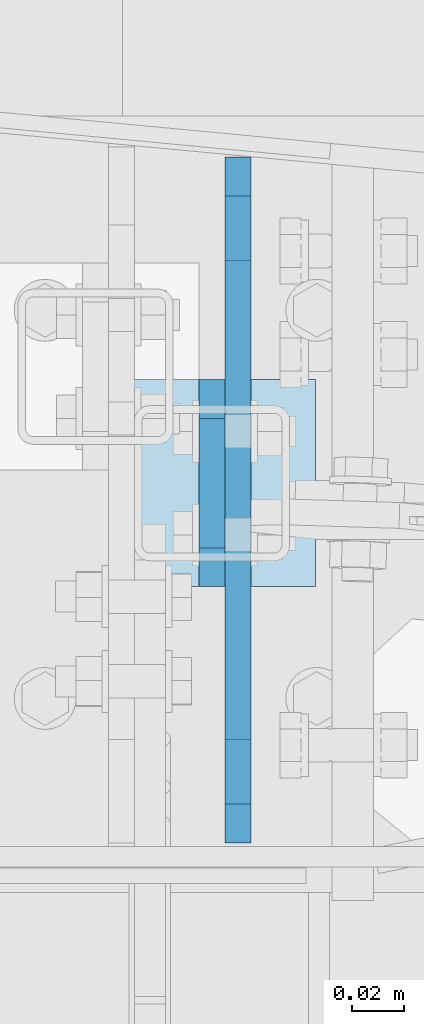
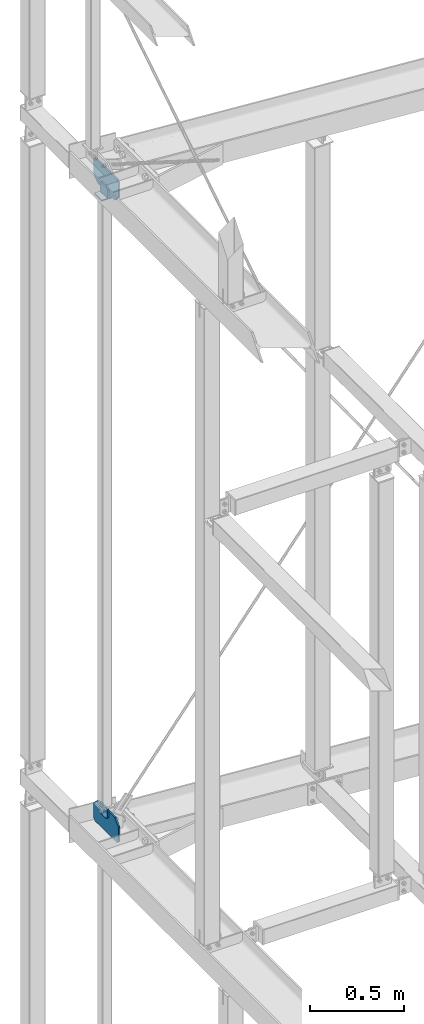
# One storey, part 139 of 271: 5 plates, 3 elements without a shape of their own.
"""IFC2X3 building model written with IfcOpenShell, lengths in millimetres."""

from ifc_helpers import new_model, si_unit, frame, origin_with_axes, place, context, subcontext, project, spatial, polyline, outline, extrude, material, type_object, element, aggregate, save


model = new_model("IFC2X3")

# Units and contexts
model_context = context("Model", 3, precision=1e-05, world=origin_with_axes())
body_context = subcontext(model_context, "Body", "Model", "MODEL_VIEW")
ifc_project = project(units=[si_unit("LENGTHUNIT", "METRE", prefix="MILLI"), si_unit("AREAUNIT", "SQUARE_METRE"), si_unit("VOLUMEUNIT", "CUBIC_METRE"), si_unit("MASSUNIT", "GRAM", prefix="KILO"), si_unit("TIMEUNIT", "SECOND"), si_unit("PLANEANGLEUNIT", "RADIAN"), si_unit("SOLIDANGLEUNIT", "STERADIAN"), si_unit("THERMODYNAMICTEMPERATUREUNIT", "DEGREE_CELSIUS"), si_unit("LUMINOUSINTENSITYUNIT", "LUMEN")], contexts=[model_context])

# Site, building, storey
site_placement = place(None, origin_with_axes())
site = spatial("IfcSite", under=ifc_project, at=site_placement, Name="Undefined", CompositionType="ELEMENT")
building_placement = place(site_placement, origin_with_axes())
building = spatial("IfcBuilding", under=site, at=building_placement, Name="Undefined", CompositionType="ELEMENT")
storey_placement = place(building_placement, origin_with_axes())
storey = spatial("IfcBuildingStorey", under=building, at=storey_placement, Name="Undefined", CompositionType="ELEMENT", Elevation=0.0)

# Assembly, plates
assembly_1_placement = place(storey_placement, origin_with_axes())
assembly_1 = element("IfcElementAssembly", 1, at=assembly_1_placement, inside=storey, AssemblyPlace="NOTDEFINED", PredefinedType="RIGID_FRAME")
ifc_material = material(Name="STEEL/S355JR")
plate_type_1 = type_object("IfcPlateType", Name="BL10*70", PredefinedType="NOTDEFINED")
plate_1_placement = place(assembly_1_placement, frame((122.999999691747, 4332.19355050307, 14442.649999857), z_axis=(-1.0, 0.0, 1.38777878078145e-17), x_axis=(0.0, -0.707106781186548, -0.707106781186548)))
plate_1 = element("IfcPlate", 2, at=plate_1_placement, type_object=plate_type_1, material=ifc_material, Name="BLACHA", ObjectType="BL10*70", context=body_context, shape_type="SweptSolid", body=[
    extrude(outline(polyline([(0.0, 0.0), (21.2132034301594, 1.09139364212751e-11), (56.5685424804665, 35.3553390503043), (56.568542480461, 56.5685424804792), (17.6776695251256, 95.4594192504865), (-38.890872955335, 38.8908729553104), (0.0, 0.0)])), frame((0.0, 0.0, -5.0), z_axis=(0.0, 0.0, 1.0), x_axis=(1.0, 0.0, 0.0)), (0.0, 0.0, 1.0), 10.0),
])
plate_2_placement = place(assembly_1_placement, frame((122.999999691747, 4252.19355050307, 18526.049999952), z_axis=(-1.0, 0.0, 1.38777878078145e-17), x_axis=(0.0, 0.707106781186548, 0.707106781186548)))
plate_2 = element("IfcPlate", 3, at=plate_2_placement, type_object=plate_type_1, material=ifc_material, Name="BLACHA", ObjectType="BL10*70", context=body_context, shape_type="SweptSolid", body=[
    extrude(outline(polyline([(0.0, 0.0), (21.2132034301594, 1.09139364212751e-11), (56.5685424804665, 35.3553390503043), (56.568542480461, 56.5685424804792), (17.6776695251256, 95.4594192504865), (-38.890872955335, 38.8908729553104), (0.0, 0.0)])), frame((0.0, 0.0, -5.0), z_axis=(0.0, 0.0, 1.0), x_axis=(1.0, 0.0, 0.0)), (0.0, 0.0, 1.0), 10.0),
])
plate_type_2 = type_object("IfcPlateType", Name="BL8*80", PredefinedType="NOTDEFINED")
plate_3_placement = place(assembly_1_placement, frame((162.999999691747, 4252.19355050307, 18467.049999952), z_axis=(0.0, 0.0, 1.0), x_axis=(0.0, 1.0, 0.0)))
plate_3 = element("IfcPlate", 4, at=plate_3_placement, type_object=plate_type_2, material=ifc_material, Name="BLACHA", ObjectType="BL8*80", context=body_context, shape_type="SweptSolid", body=[
    extrude(outline(polyline([(0.0, 0.0), (80.0, 0.0), (80.0, 80.0), (0.0, 80.0), (0.0, 0.0)])), frame((0.0, 0.0, -4.0), z_axis=(0.0, 0.0, 1.0), x_axis=(1.0, 0.0, 0.0)), (0.0, 0.0, 1.0), 8.0),
])
aggregate(assembly_1, [plate_1, plate_3, plate_2])

# Assembly, plate
assembly_2_placement = place(storey_placement, origin_with_axes())
assembly_2 = element("IfcElementAssembly", 5, at=assembly_2_placement, inside=storey, AssemblyPlace="NOTDEFINED", PredefinedType="RIGID_FRAME")
plate_type_3 = type_object("IfcPlateType", Name="BL10*150", PredefinedType="NOTDEFINED")
plate_4_placement = place(assembly_2_placement, frame((132.999999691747, 4418.19355050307, 14327.649999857), z_axis=(-1.0, 0.0, 1.38777878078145e-17), x_axis=(0.0, -1.0, 0.0)))
plate_4 = element("IfcPlate", 6, at=plate_4_placement, type_object=plate_type_3, material=ifc_material, Name="BLACHA", ObjectType="BL10*150", context=body_context, shape_type="SweptSolid", body=[
    extrude(outline(polyline([(0.0, 15.0), (15.0, -1.59872115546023e-14), (250.0, -1.4210854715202e-14), (265.0, 15.0), (265.0, 110.0), (225.0, 150.0), (40.0, 150.0), (0.0, 110.0), (0.0, 15.0)])), frame((0.0, 0.0, -5.0), z_axis=(0.0, 0.0, 1.0), x_axis=(1.0, 0.0, 0.0)), (0.0, 0.0, 1.0), 10.0),
])
aggregate(assembly_2, [plate_4])

assembly_3_placement = place(storey_placement, origin_with_axes())
assembly_3 = element("IfcElementAssembly", 7, at=assembly_3_placement, inside=storey, AssemblyPlace="NOTDEFINED", PredefinedType="RIGID_FRAME")
plate_5_placement = place(assembly_3_placement, frame((132.999999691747, 4153.19355050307, 18641.049999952), z_axis=(-1.0, 0.0, 1.38777878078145e-17), x_axis=(0.0, 1.0, 0.0)))
plate_5 = element("IfcPlate", 8, at=plate_5_placement, type_object=plate_type_3, material=ifc_material, Name="BLACHA", ObjectType="BL10*150", context=body_context, shape_type="SweptSolid", body=[
    extrude(outline(polyline([(0.0, 15.0), (15.0, -1.59872115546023e-14), (250.0, -1.4210854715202e-14), (265.0, 15.0), (265.0, 110.0), (225.0, 150.0), (40.0, 150.0), (0.0, 110.0), (0.0, 15.0)])), frame((0.0, 0.0, -5.0), z_axis=(0.0, 0.0, 1.0), x_axis=(1.0, 0.0, 0.0)), (0.0, 0.0, 1.0), 10.0),
])
aggregate(assembly_3, [plate_5])

save(model, "model.ifc")
